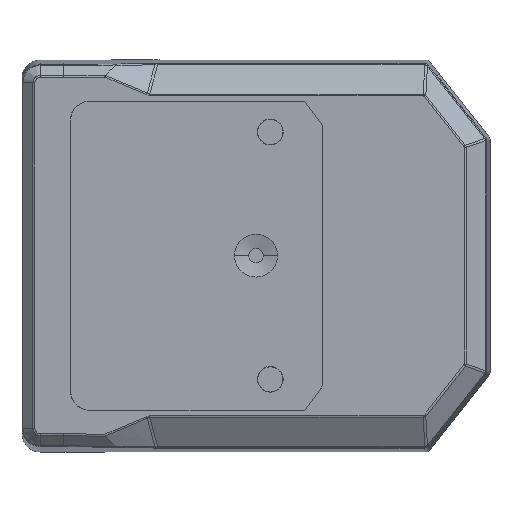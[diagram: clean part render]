
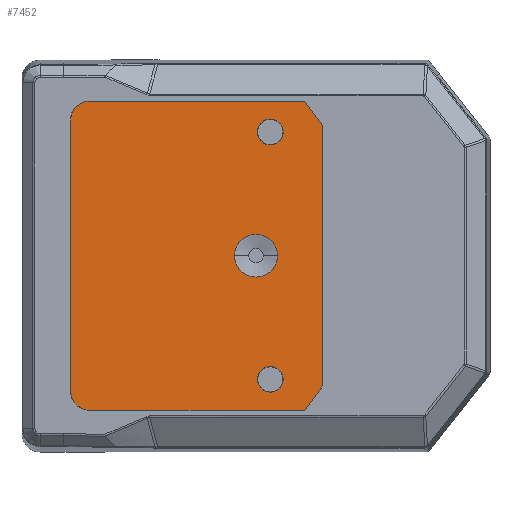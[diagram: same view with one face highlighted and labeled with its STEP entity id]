
A CAD part, top view. The second image highlights one B-rep face of the part: STEP entity #7452.
In plain terms, the highlighted planar face has unit normal (0, 0, 1).
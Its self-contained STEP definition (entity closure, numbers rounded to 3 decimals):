
#2562=DIRECTION('',(0.,1.,0.));
#2563=VECTOR('',#2562,27.397);
#2564=CARTESIAN_POINT('',(6.993,-13.698,16.5));
#2565=LINE('',#2564,#2563);
#2575=CARTESIAN_POINT('',(-19.493,14.244,16.5));
#2576=CARTESIAN_POINT('',(-19.493,14.423,16.5));
#2577=CARTESIAN_POINT('',(-19.447,14.767,16.5));
#2578=CARTESIAN_POINT('',(-19.245,15.257,16.5));
#2579=CARTESIAN_POINT('',(-18.924,15.674,16.5));
#2580=CARTESIAN_POINT('',(-18.507,15.995,16.5));
#2581=CARTESIAN_POINT('',(-18.017,16.197,16.5));
#2582=CARTESIAN_POINT('',(-17.673,16.243,16.5));
#2583=CARTESIAN_POINT('',(-17.494,16.243,16.5));
#2585=DIRECTION('',(1.,0.,0.));
#2586=VECTOR('',#2585,22.592);
#2587=CARTESIAN_POINT('',(-17.494,16.243,16.5));
#2588=LINE('',#2587,#2586);
#2589=DIRECTION('',(0.597,-0.802,0.));
#2590=VECTOR('',#2589,3.173);
#2591=CARTESIAN_POINT('',(5.097,16.243,16.5));
#2592=LINE('',#2591,#2590);
#2593=DIRECTION('',(-0.597,-0.802,0.));
#2594=VECTOR('',#2593,3.173);
#2595=CARTESIAN_POINT('',(6.993,-13.698,16.5));
#2596=LINE('',#2595,#2594);
#2597=CARTESIAN_POINT('',(1.5,13.,16.5));
#2598=DIRECTION('',(0.,0.,1.));
#2599=DIRECTION('',(0.,-1.,0.));
#2600=AXIS2_PLACEMENT_3D('',#2597,#2598,#2599);
#2602=CARTESIAN_POINT('',(1.5,13.,16.5));
#2603=DIRECTION('',(0.,0.,1.));
#2604=DIRECTION('',(0.,1.,0.));
#2605=AXIS2_PLACEMENT_3D('',#2602,#2603,#2604);
#2607=CARTESIAN_POINT('',(1.5,-13.,16.5));
#2608=DIRECTION('',(0.,0.,1.));
#2609=DIRECTION('',(0.,-1.,0.));
#2610=AXIS2_PLACEMENT_3D('',#2607,#2608,#2609);
#2612=CARTESIAN_POINT('',(1.5,-13.,16.5));
#2613=DIRECTION('',(0.,0.,1.));
#2614=DIRECTION('',(0.,1.,0.));
#2615=AXIS2_PLACEMENT_3D('',#2612,#2613,#2614);
#2617=CARTESIAN_POINT('',(0.,0.,16.5));
#2618=DIRECTION('',(0.,0.,1.));
#2619=DIRECTION('',(-1.,0.,0.));
#2620=AXIS2_PLACEMENT_3D('',#2617,#2618,#2619);
#2622=CARTESIAN_POINT('',(0.,0.,16.5));
#2623=DIRECTION('',(0.,0.,1.));
#2624=DIRECTION('',(0.,-1.,0.));
#2625=AXIS2_PLACEMENT_3D('',#2622,#2623,#2624);
#2627=CARTESIAN_POINT('',(0.,0.,16.5));
#2628=DIRECTION('',(0.,0.,1.));
#2629=DIRECTION('',(1.,0.,0.));
#2630=AXIS2_PLACEMENT_3D('',#2627,#2628,#2629);
#2632=CARTESIAN_POINT('',(0.,0.,16.5));
#2633=DIRECTION('',(0.,0.,1.));
#2634=DIRECTION('',(0.,1.,0.));
#2635=AXIS2_PLACEMENT_3D('',#2632,#2633,#2634);
#2645=DIRECTION('',(0.,-1.,0.));
#2646=VECTOR('',#2645,28.488);
#2647=CARTESIAN_POINT('',(-19.493,14.244,16.5));
#2648=LINE('',#2647,#2646);
#2669=CARTESIAN_POINT('',(-19.493,-14.244,
16.5));
#2670=CARTESIAN_POINT('',(-19.493,-14.423,
16.5));
#2671=CARTESIAN_POINT('',(-19.447,-14.766,
16.5));
#2672=CARTESIAN_POINT('',(-19.245,-15.256,
16.5));
#2673=CARTESIAN_POINT('',(-18.924,-15.674,
16.5));
#2674=CARTESIAN_POINT('',(-18.506,-15.995,
16.5));
#2675=CARTESIAN_POINT('',(-18.016,-16.197,
16.5));
#2676=CARTESIAN_POINT('',(-17.673,-16.243,
16.5));
#2677=CARTESIAN_POINT('',(-17.494,-16.243,
16.5));
#2697=DIRECTION('',(1.,0.,0.));
#2698=VECTOR('',#2697,22.592);
#2699=CARTESIAN_POINT('',(-17.494,-16.243,
16.5));
#2700=LINE('',#2699,#2698);
#2967=CARTESIAN_POINT('',(6.993,-13.698,16.5));
#2968=CARTESIAN_POINT('',(6.993,13.698,16.5));
#2969=VERTEX_POINT('',#2967);
#2970=VERTEX_POINT('',#2968);
#2971=CARTESIAN_POINT('',(-19.493,14.244,16.5));
#2972=CARTESIAN_POINT('',(-19.493,-14.244,
16.5));
#2973=VERTEX_POINT('',#2971);
#2974=VERTEX_POINT('',#2972);
#2975=VERTEX_POINT('',#2583);
#2976=CARTESIAN_POINT('',(5.097,16.243,16.5));
#2977=VERTEX_POINT('',#2976);
#2978=CARTESIAN_POINT('',(5.097,-16.243,16.5));
#2979=VERTEX_POINT('',#2978);
#2980=CARTESIAN_POINT('',(-17.494,-16.243,
16.5));
#2981=VERTEX_POINT('',#2980);
#2982=CARTESIAN_POINT('',(1.5,11.65,16.5));
#2983=CARTESIAN_POINT('',(1.5,14.35,16.5));
#2984=VERTEX_POINT('',#2982);
#2985=VERTEX_POINT('',#2983);
#2986=CARTESIAN_POINT('',(1.5,-14.35,16.5));
#2987=CARTESIAN_POINT('',(1.5,-11.65,16.5));
#2988=VERTEX_POINT('',#2986);
#2989=VERTEX_POINT('',#2987);
#2990=CARTESIAN_POINT('',(-2.25,0.,16.5));
#2991=CARTESIAN_POINT('',(0.,-2.25,16.5));
#2992=VERTEX_POINT('',#2990);
#2993=VERTEX_POINT('',#2991);
#2994=CARTESIAN_POINT('',(2.25,0.,16.5));
#2995=VERTEX_POINT('',#2994);
#2996=CARTESIAN_POINT('',(0.,2.25,16.5));
#2997=VERTEX_POINT('',#2996);
#7408=CARTESIAN_POINT('',(0.,0.,16.5));
#7409=DIRECTION('',(0.,0.,1.));
#7410=DIRECTION('',(0.,-1.,0.));
#7411=AXIS2_PLACEMENT_3D('',#7408,#7409,#7410);
#7412=PLANE('',#7411);
#7414=ORIENTED_EDGE('',*,*,#7413,.F.);
#7416=ORIENTED_EDGE('',*,*,#7415,.T.);
#7418=ORIENTED_EDGE('',*,*,#7417,.T.);
#7420=ORIENTED_EDGE('',*,*,#7419,.T.);
#7421=ORIENTED_EDGE('',*,*,#7398,.F.);
#7423=ORIENTED_EDGE('',*,*,#7422,.T.);
#7425=ORIENTED_EDGE('',*,*,#7424,.F.);
#7427=ORIENTED_EDGE('',*,*,#7426,.F.);
#7428=EDGE_LOOP('',(#7414,#7416,#7418,#7420,#7421,#7423,#7425,#7427));
#7429=FACE_OUTER_BOUND('',#7428,.F.);
#7431=ORIENTED_EDGE('',*,*,#7430,.T.);
#7433=ORIENTED_EDGE('',*,*,#7432,.T.);
#7434=EDGE_LOOP('',(#7431,#7433));
#7435=FACE_BOUND('',#7434,.F.);
#7437=ORIENTED_EDGE('',*,*,#7436,.T.);
#7439=ORIENTED_EDGE('',*,*,#7438,.T.);
#7440=EDGE_LOOP('',(#7437,#7439));
#7441=FACE_BOUND('',#7440,.F.);
#7443=ORIENTED_EDGE('',*,*,#7442,.T.);
#7445=ORIENTED_EDGE('',*,*,#7444,.T.);
#7447=ORIENTED_EDGE('',*,*,#7446,.T.);
#7449=ORIENTED_EDGE('',*,*,#7448,.T.);
#7450=EDGE_LOOP('',(#7443,#7445,#7447,#7449));
#7451=FACE_BOUND('',#7450,.F.);
#2584=B_SPLINE_CURVE_WITH_KNOTS('',3,(#2575,#2576,#2577,#2578,#2579,#2580,#2581,
#2582,#2583),.UNSPECIFIED.,.F.,.F.,(4,1,1,1,1,1,4),(0.,0.167,
0.333,0.5,0.667,0.833,1.),
.UNSPECIFIED.);
#2601=CIRCLE('',#2600,1.35);
#2606=CIRCLE('',#2605,1.35);
#2611=CIRCLE('',#2610,1.35);
#2616=CIRCLE('',#2615,1.35);
#2621=CIRCLE('',#2620,2.25);
#2626=CIRCLE('',#2625,2.25);
#2631=CIRCLE('',#2630,2.25);
#2636=CIRCLE('',#2635,2.25);
#2678=B_SPLINE_CURVE_WITH_KNOTS('',3,(#2669,#2670,#2671,#2672,#2673,#2674,#2675,
#2676,#2677),.UNSPECIFIED.,.F.,.F.,(4,1,1,1,1,1,4),(0.,0.167,
0.333,0.5,0.667,0.833,1.),
.UNSPECIFIED.);
#7398=EDGE_CURVE('',#2969,#2970,#2565,.T.);
#7413=EDGE_CURVE('',#2973,#2974,#2648,.T.);
#7415=EDGE_CURVE('',#2973,#2975,#2584,.T.);
#7417=EDGE_CURVE('',#2975,#2977,#2588,.T.);
#7419=EDGE_CURVE('',#2977,#2970,#2592,.T.);
#7422=EDGE_CURVE('',#2969,#2979,#2596,.T.);
#7424=EDGE_CURVE('',#2981,#2979,#2700,.T.);
#7426=EDGE_CURVE('',#2974,#2981,#2678,.T.);
#7430=EDGE_CURVE('',#2984,#2985,#2601,.T.);
#7432=EDGE_CURVE('',#2985,#2984,#2606,.T.);
#7436=EDGE_CURVE('',#2988,#2989,#2611,.T.);
#7438=EDGE_CURVE('',#2989,#2988,#2616,.T.);
#7442=EDGE_CURVE('',#2992,#2993,#2621,.T.);
#7444=EDGE_CURVE('',#2993,#2995,#2626,.T.);
#7446=EDGE_CURVE('',#2995,#2997,#2631,.T.);
#7448=EDGE_CURVE('',#2997,#2992,#2636,.T.);
#7452=ADVANCED_FACE('',(#7429,#7435,#7441,#7451),#7412,.T.);
